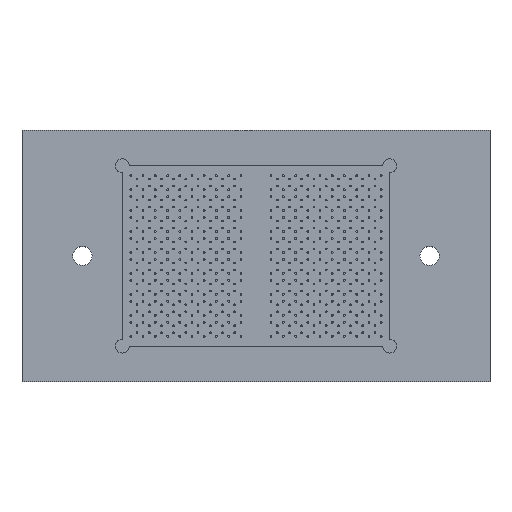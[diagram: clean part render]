
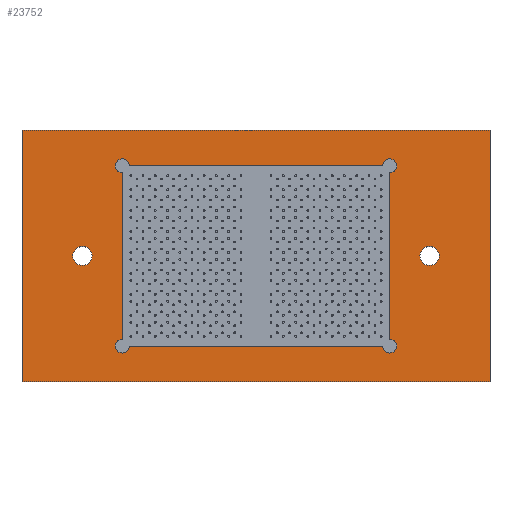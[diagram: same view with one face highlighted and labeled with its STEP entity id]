
A CAD part, top view. The second image highlights one B-rep face of the part: STEP entity #23752.
In plain terms, the highlighted planar face has unit normal (0, 0, 1).
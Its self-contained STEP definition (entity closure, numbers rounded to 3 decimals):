
#54=LINE('',#35070,#206);
#55=LINE('',#35073,#207);
#56=LINE('',#35075,#208);
#57=LINE('',#35077,#209);
#58=LINE('',#35082,#210);
#59=LINE('',#35087,#211);
#60=LINE('',#35091,#212);
#61=LINE('',#35095,#213);
#206=VECTOR('',#31032,1000.);
#207=VECTOR('',#31033,1000.);
#208=VECTOR('',#31034,1000.);
#209=VECTOR('',#31035,1000.);
#210=VECTOR('',#31040,1000.);
#211=VECTOR('',#31043,1000.);
#212=VECTOR('',#31046,1000.);
#213=VECTOR('',#31049,1000.);
#2704=ORIENTED_EDGE('',*,*,#4948,.T.);
#2705=ORIENTED_EDGE('',*,*,#4949,.F.);
#2706=ORIENTED_EDGE('',*,*,#4950,.T.);
#2707=ORIENTED_EDGE('',*,*,#4951,.F.);
#2708=ORIENTED_EDGE('',*,*,#4952,.F.);
#2709=ORIENTED_EDGE('',*,*,#4953,.F.);
#2710=ORIENTED_EDGE('',*,*,#4954,.T.);
#2711=ORIENTED_EDGE('',*,*,#4955,.T.);
#2712=ORIENTED_EDGE('',*,*,#4956,.T.);
#2713=ORIENTED_EDGE('',*,*,#4957,.T.);
#2714=ORIENTED_EDGE('',*,*,#4958,.T.);
#2715=ORIENTED_EDGE('',*,*,#4959,.T.);
#2716=ORIENTED_EDGE('',*,*,#4960,.T.);
#2717=ORIENTED_EDGE('',*,*,#4961,.T.);
#4948=EDGE_CURVE('',#6358,#6359,#54,.T.);
#4949=EDGE_CURVE('',#6360,#6359,#55,.T.);
#4950=EDGE_CURVE('',#6360,#6361,#56,.T.);
#4951=EDGE_CURVE('',#6358,#6361,#57,.T.);
#4952=EDGE_CURVE('',#6362,#6362,#7710,.T.);
#4953=EDGE_CURVE('',#6363,#6363,#7711,.T.);
#4954=EDGE_CURVE('',#6364,#6365,#58,.T.);
#4955=EDGE_CURVE('',#6365,#6366,#7712,.T.);
#4956=EDGE_CURVE('',#6366,#6367,#59,.T.);
#4957=EDGE_CURVE('',#6367,#6368,#7713,.T.);
#4958=EDGE_CURVE('',#6368,#6369,#60,.T.);
#4959=EDGE_CURVE('',#6369,#6370,#7714,.T.);
#4960=EDGE_CURVE('',#6370,#6371,#61,.T.);
#4961=EDGE_CURVE('',#6371,#6364,#7715,.T.);
#6358=VERTEX_POINT('',#35071);
#6359=VERTEX_POINT('',#35072);
#6360=VERTEX_POINT('',#35074);
#6361=VERTEX_POINT('',#35076);
#6362=VERTEX_POINT('',#35079);
#6363=VERTEX_POINT('',#35081);
#6364=VERTEX_POINT('',#35083);
#6365=VERTEX_POINT('',#35084);
#6366=VERTEX_POINT('',#35086);
#6367=VERTEX_POINT('',#35088);
#6368=VERTEX_POINT('',#35090);
#6369=VERTEX_POINT('',#35092);
#6370=VERTEX_POINT('',#35094);
#6371=VERTEX_POINT('',#35096);
#7710=CIRCLE('',#26206,2.75);
#7711=CIRCLE('',#26207,2.75);
#7712=CIRCLE('',#26208,2.);
#7713=CIRCLE('',#26209,2.);
#7714=CIRCLE('',#26210,2.);
#7715=CIRCLE('',#26211,2.);
#9520=EDGE_LOOP('',(#2704,#2705,#2706,#2707));
#9521=EDGE_LOOP('',(#2708));
#9522=EDGE_LOOP('',(#2709));
#9523=EDGE_LOOP('',(#2710,#2711,#2712,#2713,#2714,#2715,#2716,#2717));
#12054=FACE_BOUND('',#9520,.T.);
#12055=FACE_BOUND('',#9521,.T.);
#12056=FACE_BOUND('',#9522,.T.);
#12057=FACE_BOUND('',#9523,.T.);
#13438=PLANE('',#26205);
#23752=ADVANCED_FACE('',(#12054,#12055,#12056,#12057),#13438,.T.);
#26205=AXIS2_PLACEMENT_3D('',#35069,#31030,#31031);
#26206=AXIS2_PLACEMENT_3D('',#35078,#31036,#31037);
#26207=AXIS2_PLACEMENT_3D('',#35080,#31038,#31039);
#26208=AXIS2_PLACEMENT_3D('',#35085,#31041,#31042);
#26209=AXIS2_PLACEMENT_3D('',#35089,#31044,#31045);
#26210=AXIS2_PLACEMENT_3D('',#35093,#31047,#31048);
#26211=AXIS2_PLACEMENT_3D('',#35097,#31050,#31051);
#31030=DIRECTION('',(0.,0.,1.));
#31031=DIRECTION('',(1.,0.,0.));
#31032=DIRECTION('',(-1.,0.,0.));
#31033=DIRECTION('',(0.,1.,0.));
#31034=DIRECTION('',(1.,0.,0.));
#31035=DIRECTION('',(0.,-1.,0.));
#31036=DIRECTION('',(0.,0.,1.));
#31037=DIRECTION('',(1.,0.,0.));
#31038=DIRECTION('',(0.,0.,1.));
#31039=DIRECTION('',(1.,0.,0.));
#31040=DIRECTION('',(0.,1.,0.));
#31041=DIRECTION('',(0.,0.,-1.));
#31042=DIRECTION('',(1.,0.,0.));
#31043=DIRECTION('',(1.,0.,0.));
#31044=DIRECTION('',(0.,0.,-1.));
#31045=DIRECTION('',(-1.,0.,0.));
#31046=DIRECTION('',(0.,-1.,0.));
#31047=DIRECTION('',(0.,0.,-1.));
#31048=DIRECTION('',(-1.,0.,0.));
#31049=DIRECTION('',(-1.,0.,0.));
#31050=DIRECTION('',(0.,0.,-1.));
#31051=DIRECTION('',(1.,0.,0.));
#35069=CARTESIAN_POINT('',(-67.,-36.,15.));
#35070=CARTESIAN_POINT('',(67.,36.,15.));
#35071=CARTESIAN_POINT('',(67.,36.,15.));
#35072=CARTESIAN_POINT('',(-67.,36.,15.));
#35073=CARTESIAN_POINT('',(-67.,-36.,15.));
#35074=CARTESIAN_POINT('',(-67.,-36.,15.));
#35075=CARTESIAN_POINT('',(-67.,-36.,15.));
#35076=CARTESIAN_POINT('',(67.,-36.,15.));
#35077=CARTESIAN_POINT('',(67.,36.,15.));
#35078=CARTESIAN_POINT('',(-49.7,0.,15.));
#35079=CARTESIAN_POINT('',(-46.95,0.,15.));
#35080=CARTESIAN_POINT('',(49.7,0.,15.));
#35081=CARTESIAN_POINT('',(52.45,0.,15.));
#35082=CARTESIAN_POINT('',(-38.25,-23.8,15.));
#35083=CARTESIAN_POINT('',(-38.25,-23.8,15.));
#35084=CARTESIAN_POINT('',(-38.25,23.8,15.));
#35085=CARTESIAN_POINT('',(-38.25,25.8,15.));
#35086=CARTESIAN_POINT('',(-36.25,25.8,15.));
#35087=CARTESIAN_POINT('',(-36.25,25.8,15.));
#35088=CARTESIAN_POINT('',(36.25,25.8,15.));
#35089=CARTESIAN_POINT('',(38.25,25.8,15.));
#35090=CARTESIAN_POINT('',(38.25,23.8,15.));
#35091=CARTESIAN_POINT('',(38.25,23.8,15.));
#35092=CARTESIAN_POINT('',(38.25,-23.8,15.));
#35093=CARTESIAN_POINT('',(38.25,-25.8,15.));
#35094=CARTESIAN_POINT('',(36.25,-25.8,15.));
#35095=CARTESIAN_POINT('',(36.25,-25.8,15.));
#35096=CARTESIAN_POINT('',(-36.25,-25.8,15.));
#35097=CARTESIAN_POINT('',(-38.25,-25.8,15.));
